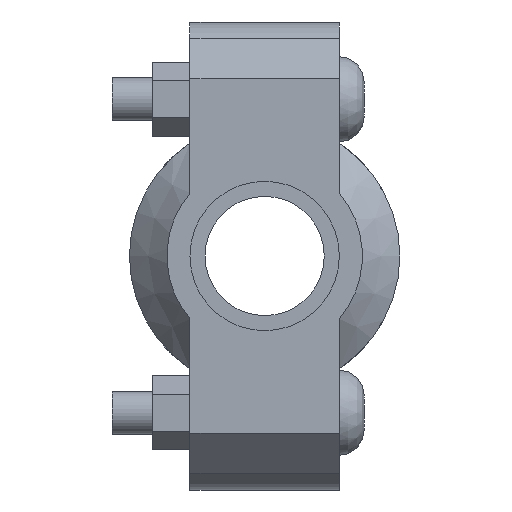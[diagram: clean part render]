
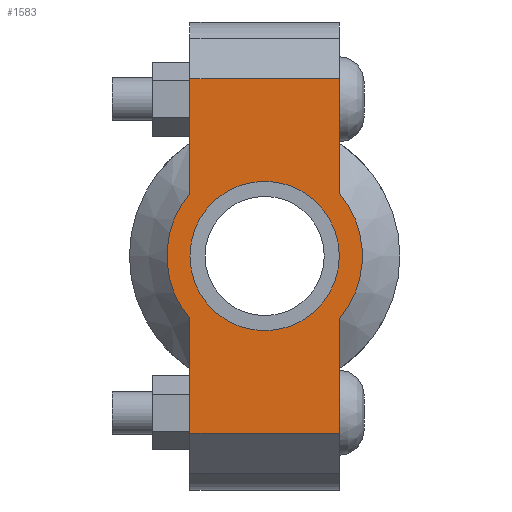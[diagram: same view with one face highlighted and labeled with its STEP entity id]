
A CAD part, left-side view. The second image highlights one B-rep face of the part: STEP entity #1583.
In plain terms, the highlighted planar face has unit normal (-1, 0, 0) as drawn and (0, 0, 1) by its records, which use the part's own axes.
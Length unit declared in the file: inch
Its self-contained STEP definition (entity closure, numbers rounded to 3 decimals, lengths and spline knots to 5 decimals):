
#194=LINE('',#2721,#289);
#209=LINE('',#2780,#304);
#217=LINE('',#2810,#312);
#219=LINE('',#2813,#314);
#220=LINE('',#2818,#315);
#221=LINE('',#2819,#316);
#289=VECTOR('',#2191,0.3937);
#304=VECTOR('',#2226,0.3937);
#312=VECTOR('',#2246,0.3937);
#314=VECTOR('',#2250,0.3937);
#315=VECTOR('',#2255,0.3937);
#316=VECTOR('',#2256,0.3937);
#376=FACE_BOUND('',#535,.T.);
#436=FACE_OUTER_BOUND('',#534,.T.);
#534=EDGE_LOOP('',(#1278,#1279,#1280,#1281,#1282,#1283,#1284,#1285));
#535=EDGE_LOOP('',(#1286));
#640=CIRCLE('',#1846,0.86);
#641=CIRCLE('',#1847,0.86);
#642=CIRCLE('',#1848,0.6575);
#749=VERTEX_POINT('',#2718);
#750=VERTEX_POINT('',#2720);
#771=VERTEX_POINT('',#2775);
#772=VERTEX_POINT('',#2779);
#781=VERTEX_POINT('',#2805);
#782=VERTEX_POINT('',#2809);
#783=VERTEX_POINT('',#2815);
#784=VERTEX_POINT('',#2817);
#785=VERTEX_POINT('',#2821);
#919=EDGE_CURVE('',#750,#749,#194,.T.);
#944=EDGE_CURVE('',#772,#771,#209,.T.);
#957=EDGE_CURVE('',#782,#781,#217,.T.);
#959=EDGE_CURVE('',#782,#749,#219,.T.);
#960=EDGE_CURVE('',#781,#783,#640,.T.);
#961=EDGE_CURVE('',#783,#784,#220,.T.);
#962=EDGE_CURVE('',#772,#784,#221,.T.);
#963=EDGE_CURVE('',#771,#750,#641,.T.);
#964=EDGE_CURVE('',#785,#785,#642,.T.);
#1278=ORIENTED_EDGE('',*,*,#959,.F.);
#1279=ORIENTED_EDGE('',*,*,#957,.T.);
#1280=ORIENTED_EDGE('',*,*,#960,.T.);
#1281=ORIENTED_EDGE('',*,*,#961,.T.);
#1282=ORIENTED_EDGE('',*,*,#962,.F.);
#1283=ORIENTED_EDGE('',*,*,#944,.T.);
#1284=ORIENTED_EDGE('',*,*,#963,.T.);
#1285=ORIENTED_EDGE('',*,*,#919,.T.);
#1286=ORIENTED_EDGE('',*,*,#964,.T.);
#1435=PLANE('',#1845);
#1583=ADVANCED_FACE('',(#436,#376),#1435,.T.);
#1845=AXIS2_PLACEMENT_3D('',#2814,#2251,#2252);
#1846=AXIS2_PLACEMENT_3D('',#2816,#2253,#2254);
#1847=AXIS2_PLACEMENT_3D('',#2820,#2257,#2258);
#1848=AXIS2_PLACEMENT_3D('',#2822,#2259,#2260);
#2191=DIRECTION('',(1.,0.,0.));
#2226=DIRECTION('',(1.,0.,0.));
#2246=DIRECTION('',(-1.,0.,0.));
#2250=DIRECTION('',(0.,-1.,0.));
#2251=DIRECTION('center_axis',(0.,0.,1.));
#2252=DIRECTION('ref_axis',(-1.,0.,0.));
#2253=DIRECTION('center_axis',(0.,0.,1.));
#2254=DIRECTION('ref_axis',(1.,0.,0.));
#2255=DIRECTION('',(-1.,0.,0.));
#2256=DIRECTION('',(0.,1.,0.));
#2257=DIRECTION('center_axis',(0.,0.,1.));
#2258=DIRECTION('ref_axis',(1.,0.,0.));
#2259=DIRECTION('center_axis',(0.,0.,-1.));
#2260=DIRECTION('ref_axis',(1.,0.,0.));
#2718=CARTESIAN_POINT('',(1.56,-0.6575,0.875));
#2720=CARTESIAN_POINT('',(0.55434,-0.6575,0.875));
#2721=CARTESIAN_POINT('',(-2.06,-0.6575,0.875));
#2775=CARTESIAN_POINT('',(-0.55434,-0.6575,0.875));
#2779=CARTESIAN_POINT('',(-1.56,-0.6575,0.875));
#2780=CARTESIAN_POINT('',(-2.06,-0.6575,0.875));
#2805=CARTESIAN_POINT('',(0.55434,0.6575,0.875));
#2809=CARTESIAN_POINT('',(1.56,0.6575,0.875));
#2810=CARTESIAN_POINT('',(2.06,0.6575,0.875));
#2813=CARTESIAN_POINT('',(1.56,-0.32875,0.875));
#2814=CARTESIAN_POINT('Origin',(0.,0.,
0.875));
#2815=CARTESIAN_POINT('',(-0.55434,0.6575,0.875));
#2816=CARTESIAN_POINT('Origin',(0.,0.,0.875));
#2817=CARTESIAN_POINT('',(-1.56,0.6575,0.875));
#2818=CARTESIAN_POINT('',(2.06,0.6575,0.875));
#2819=CARTESIAN_POINT('',(-1.56,0.32875,0.875));
#2820=CARTESIAN_POINT('Origin',(0.,0.,0.875));
#2821=CARTESIAN_POINT('',(-0.6575,0.,0.875));
#2822=CARTESIAN_POINT('Origin',(0.,0.,0.875));
